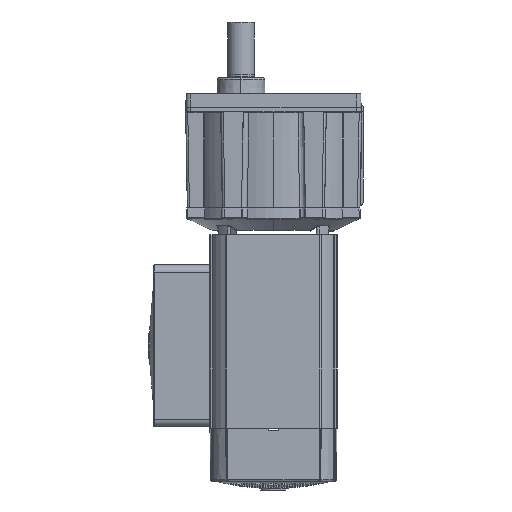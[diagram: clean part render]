
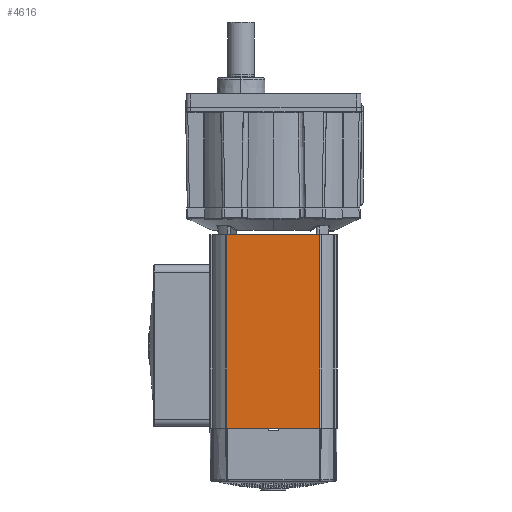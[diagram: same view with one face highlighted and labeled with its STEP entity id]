
A CAD part, left-side view. The second image highlights one B-rep face of the part: STEP entity #4616.
In plain terms, the highlighted planar face has unit normal (-1, 0, 0).
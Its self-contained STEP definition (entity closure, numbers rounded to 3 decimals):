
#2266 = CARTESIAN_POINT ( 'NONE',  ( -45.123, -33.655, -236.743 ) ) ;
#2400 = AXIS2_PLACEMENT_3D ( 'NONE', #2266, #31268, #22201 ) ;
#2656 = DIRECTION ( 'NONE',  ( 0., 0., -1. ) ) ;
#4616 = ADVANCED_FACE ( 'NONE', ( #5007 ), #46285, .T. ) ;
#5007 = FACE_OUTER_BOUND ( 'NONE', #45563, .T. ) ;
#6505 = LINE ( 'NONE', #7271, #42758 ) ;
#7271 = CARTESIAN_POINT ( 'NONE',  ( -45.123, 32.893, -236.743 ) ) ;
#8959 = EDGE_CURVE ( 'NONE', #52749, #29432, #6505, .T. ) ;
#10920 = CARTESIAN_POINT ( 'NONE',  ( -45.123, -33.655, -99.71 ) ) ;
#12020 = CARTESIAN_POINT ( 'NONE',  ( -45.123, -32.893, -99.71 ) ) ;
#15631 = CARTESIAN_POINT ( 'NONE',  ( -45.123, 32.893, -99.71 ) ) ;
#16106 = CARTESIAN_POINT ( 'NONE',  ( -45.123, -33.655, -236.743 ) ) ;
#16381 = DIRECTION ( 'NONE',  ( 0., -1., 0. ) ) ;
#17050 = VECTOR ( 'NONE', #25575, 1000. ) ;
#17464 = LINE ( 'NONE', #39886, #37130 ) ;
#20786 = CARTESIAN_POINT ( 'NONE',  ( -45.123, -32.893, -236.743 ) ) ;
#22201 = DIRECTION ( 'NONE',  ( 0., 0., 1. ) ) ;
#23961 = CARTESIAN_POINT ( 'NONE',  ( -45.123, 32.893, -236.743 ) ) ;
#24348 = LINE ( 'NONE', #10920, #40212 ) ;
#25371 = LINE ( 'NONE', #16106, #17050 ) ;
#25575 = DIRECTION ( 'NONE',  ( 0., -1., 0. ) ) ;
#26716 = EDGE_CURVE ( 'NONE', #52749, #48009, #24348, .T. ) ;
#28995 = ORIENTED_EDGE ( 'NONE', *, *, #55949, .T. ) ;
#29432 = VERTEX_POINT ( 'NONE', #23961 ) ;
#31268 = DIRECTION ( 'NONE',  ( -1., 0., 0. ) ) ;
#35007 = DIRECTION ( 'NONE',  ( 0., 0., 1. ) ) ;
#37130 = VECTOR ( 'NONE', #35007, 1000. ) ;
#39886 = CARTESIAN_POINT ( 'NONE',  ( -45.123, -32.893, -236.743 ) ) ;
#40212 = VECTOR ( 'NONE', #16381, 1000. ) ;
#42758 = VECTOR ( 'NONE', #2656, 1000. ) ;
#45563 = EDGE_LOOP ( 'NONE', ( #50143, #50136, #57343, #28995 ) ) ;
#46285 = PLANE ( 'NONE',  #2400 ) ;
#48009 = VERTEX_POINT ( 'NONE', #12020 ) ;
#50136 = ORIENTED_EDGE ( 'NONE', *, *, #8959, .T. ) ;
#50143 = ORIENTED_EDGE ( 'NONE', *, *, #26716, .F. ) ;
#52749 = VERTEX_POINT ( 'NONE', #15631 ) ;
#55949 = EDGE_CURVE ( 'NONE', #59665, #48009, #17464, .T. ) ;
#57343 = ORIENTED_EDGE ( 'NONE', *, *, #57714, .T. ) ;
#57714 = EDGE_CURVE ( 'NONE', #29432, #59665, #25371, .T. ) ;
#59665 = VERTEX_POINT ( 'NONE', #20786 ) ;
